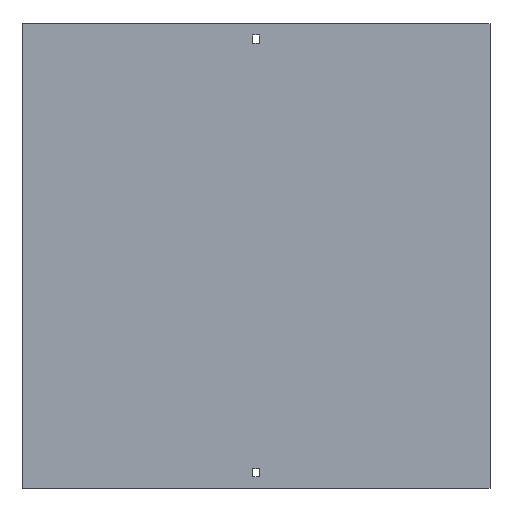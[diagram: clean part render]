
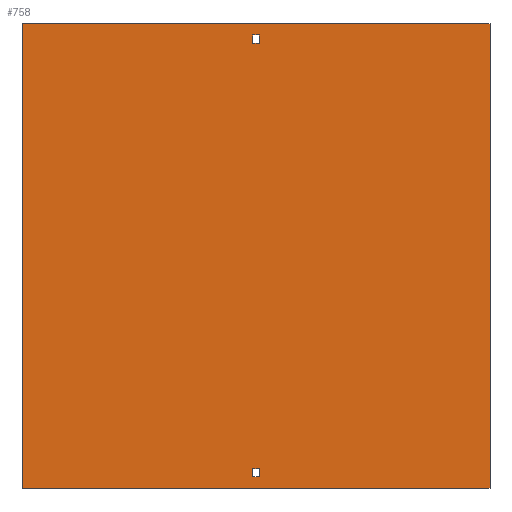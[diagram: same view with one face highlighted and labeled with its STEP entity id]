
A CAD part, front view. The second image highlights one B-rep face of the part: STEP entity #758.
In plain terms, the highlighted planar face has unit normal (0, -1, 0).
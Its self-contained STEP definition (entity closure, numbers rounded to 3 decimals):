
#88 = ORIENTED_EDGE ( 'NONE', *, *, #164, .T. ) ;
#131 = ORIENTED_EDGE ( 'NONE', *, *, #1047, .F. ) ;
#150 = VECTOR ( 'NONE', #1553, 1000. ) ;
#154 = CARTESIAN_POINT ( 'NONE',  ( 3.25, 0., 238. ) ) ;
#164 = EDGE_CURVE ( 'NONE', #409, #394, #1162, .T. ) ;
#165 = VECTOR ( 'NONE', #779, 1000. ) ;
#193 = VERTEX_POINT ( 'NONE', #1225 ) ;
#199 = EDGE_LOOP ( 'NONE', ( #88, #693, #2194, #2297 ) ) ;
#204 = VECTOR ( 'NONE', #271, 1000. ) ;
#216 = CARTESIAN_POINT ( 'NONE',  ( -3.25, 0., 229. ) ) ;
#255 = ORIENTED_EDGE ( 'NONE', *, *, #2583, .T. ) ;
#269 = LINE ( 'NONE', #1729, #1565 ) ;
#271 = DIRECTION ( 'NONE',  ( 1., 0., 0. ) ) ;
#291 = CARTESIAN_POINT ( 'NONE',  ( 3.25, 0., -229. ) ) ;
#356 = VECTOR ( 'NONE', #1535, 1000. ) ;
#394 = VERTEX_POINT ( 'NONE', #1953 ) ;
#402 = VECTOR ( 'NONE', #1005, 1000. ) ;
#409 = VERTEX_POINT ( 'NONE', #2169 ) ;
#415 = CARTESIAN_POINT ( 'NONE',  ( -3.25, 0., -238. ) ) ;
#419 = VECTOR ( 'NONE', #2010, 1000. ) ;
#458 = DIRECTION ( 'NONE',  ( 0., 0., -1. ) ) ;
#484 = EDGE_CURVE ( 'NONE', #500, #2188, #1782, .T. ) ;
#500 = VERTEX_POINT ( 'NONE', #1725 ) ;
#501 = AXIS2_PLACEMENT_3D ( 'NONE', #2254, #1601, #2461 ) ;
#533 = ORIENTED_EDGE ( 'NONE', *, *, #2356, .T. ) ;
#546 = PLANE ( 'NONE',  #501 ) ;
#577 = DIRECTION ( 'NONE',  ( 0., 0., -1. ) ) ;
#592 = DIRECTION ( 'NONE',  ( 0., 0., -1. ) ) ;
#617 = ORIENTED_EDGE ( 'NONE', *, *, #1627, .F. ) ;
#640 = LINE ( 'NONE', #154, #402 ) ;
#669 = CARTESIAN_POINT ( 'NONE',  ( -3.25, 0., 238. ) ) ;
#680 = EDGE_LOOP ( 'NONE', ( #131, #617, #1985, #1048 ) ) ;
#682 = LINE ( 'NONE', #1289, #1738 ) ;
#686 = LINE ( 'NONE', #2358, #150 ) ;
#693 = ORIENTED_EDGE ( 'NONE', *, *, #2684, .F. ) ;
#719 = VERTEX_POINT ( 'NONE', #291 ) ;
#758 = ADVANCED_FACE ( 'NONE', ( #968, #2644, #1808 ), #546, .F. ) ;
#779 = DIRECTION ( 'NONE',  ( 1., 0., 0. ) ) ;
#806 = CARTESIAN_POINT ( 'NONE',  ( -3.25, 0., -229. ) ) ;
#833 = CARTESIAN_POINT ( 'NONE',  ( 3.25, 0., -238. ) ) ;
#881 = LINE ( 'NONE', #216, #1699 ) ;
#902 = LINE ( 'NONE', #415, #356 ) ;
#941 = VERTEX_POINT ( 'NONE', #1281 ) ;
#968 = FACE_OUTER_BOUND ( 'NONE', #199, .T. ) ;
#1005 = DIRECTION ( 'NONE',  ( 0., 0., 1. ) ) ;
#1047 = EDGE_CURVE ( 'NONE', #1921, #193, #881, .T. ) ;
#1048 = ORIENTED_EDGE ( 'NONE', *, *, #2125, .F. ) ;
#1123 = VECTOR ( 'NONE', #592, 1000. ) ;
#1161 = VECTOR ( 'NONE', #1435, 1000. ) ;
#1162 = LINE ( 'NONE', #2683, #419 ) ;
#1218 = ORIENTED_EDGE ( 'NONE', *, *, #2218, .T. ) ;
#1225 = CARTESIAN_POINT ( 'NONE',  ( 3.25, 0., 229. ) ) ;
#1281 = CARTESIAN_POINT ( 'NONE',  ( -3.25, 0., -238. ) ) ;
#1289 = CARTESIAN_POINT ( 'NONE',  ( -3.25, 0., 238. ) ) ;
#1373 = VERTEX_POINT ( 'NONE', #806 ) ;
#1435 = DIRECTION ( 'NONE',  ( 0., 0., -1. ) ) ;
#1479 = CARTESIAN_POINT ( 'NONE',  ( 3.25, 0., -238. ) ) ;
#1481 = VECTOR ( 'NONE', #577, 1000. ) ;
#1516 = VERTEX_POINT ( 'NONE', #669 ) ;
#1535 = DIRECTION ( 'NONE',  ( 0., 0., 1. ) ) ;
#1553 = DIRECTION ( 'NONE',  ( -1., 0., 0. ) ) ;
#1561 = LINE ( 'NONE', #1644, #1123 ) ;
#1565 = VECTOR ( 'NONE', #458, 1000. ) ;
#1601 = DIRECTION ( 'NONE',  ( 0., 1., 0. ) ) ;
#1627 = EDGE_CURVE ( 'NONE', #1516, #1921, #1561, .T. ) ;
#1644 = CARTESIAN_POINT ( 'NONE',  ( -3.25, 0., 238. ) ) ;
#1689 = CARTESIAN_POINT ( 'NONE',  ( 252., 0., 250. ) ) ;
#1690 = EDGE_CURVE ( 'NONE', #500, #409, #2047, .T. ) ;
#1699 = VECTOR ( 'NONE', #1705, 1000. ) ;
#1705 = DIRECTION ( 'NONE',  ( 1., 0., 0. ) ) ;
#1725 = CARTESIAN_POINT ( 'NONE',  ( -252., 0., 250. ) ) ;
#1729 = CARTESIAN_POINT ( 'NONE',  ( 252., 0., 250. ) ) ;
#1738 = VECTOR ( 'NONE', #2180, 1000. ) ;
#1752 = EDGE_LOOP ( 'NONE', ( #2165, #533, #255, #1218 ) ) ;
#1782 = LINE ( 'NONE', #2209, #204 ) ;
#1808 = FACE_BOUND ( 'NONE', #1752, .T. ) ;
#1921 = VERTEX_POINT ( 'NONE', #2173 ) ;
#1953 = CARTESIAN_POINT ( 'NONE',  ( 252., 0., -250. ) ) ;
#1985 = ORIENTED_EDGE ( 'NONE', *, *, #2616, .F. ) ;
#2010 = DIRECTION ( 'NONE',  ( 1., 0., 0. ) ) ;
#2047 = LINE ( 'NONE', #2518, #1481 ) ;
#2079 = VERTEX_POINT ( 'NONE', #2474 ) ;
#2125 = EDGE_CURVE ( 'NONE', #193, #2079, #640, .T. ) ;
#2165 = ORIENTED_EDGE ( 'NONE', *, *, #2711, .T. ) ;
#2169 = CARTESIAN_POINT ( 'NONE',  ( -252., 0., -250. ) ) ;
#2173 = CARTESIAN_POINT ( 'NONE',  ( -3.25, 0., 229. ) ) ;
#2180 = DIRECTION ( 'NONE',  ( -1., 0., 0. ) ) ;
#2188 = VERTEX_POINT ( 'NONE', #1689 ) ;
#2194 = ORIENTED_EDGE ( 'NONE', *, *, #484, .F. ) ;
#2209 = CARTESIAN_POINT ( 'NONE',  ( -252., 0., 250. ) ) ;
#2218 = EDGE_CURVE ( 'NONE', #2559, #941, #686, .T. ) ;
#2254 = CARTESIAN_POINT ( 'NONE',  ( -252., 0., 250. ) ) ;
#2297 = ORIENTED_EDGE ( 'NONE', *, *, #1690, .T. ) ;
#2356 = EDGE_CURVE ( 'NONE', #1373, #719, #2672, .T. ) ;
#2358 = CARTESIAN_POINT ( 'NONE',  ( -3.25, 0., -238. ) ) ;
#2429 = CARTESIAN_POINT ( 'NONE',  ( -3.25, 0., -229. ) ) ;
#2461 = DIRECTION ( 'NONE',  ( -1., 0., 0. ) ) ;
#2474 = CARTESIAN_POINT ( 'NONE',  ( 3.25, 0., 238. ) ) ;
#2518 = CARTESIAN_POINT ( 'NONE',  ( -252., 0., 250. ) ) ;
#2559 = VERTEX_POINT ( 'NONE', #1479 ) ;
#2583 = EDGE_CURVE ( 'NONE', #719, #2559, #2749, .T. ) ;
#2616 = EDGE_CURVE ( 'NONE', #2079, #1516, #682, .T. ) ;
#2644 = FACE_BOUND ( 'NONE', #680, .T. ) ;
#2672 = LINE ( 'NONE', #2429, #165 ) ;
#2683 = CARTESIAN_POINT ( 'NONE',  ( -252., 0., -250. ) ) ;
#2684 = EDGE_CURVE ( 'NONE', #2188, #394, #269, .T. ) ;
#2711 = EDGE_CURVE ( 'NONE', #941, #1373, #902, .T. ) ;
#2749 = LINE ( 'NONE', #833, #1161 ) ;
